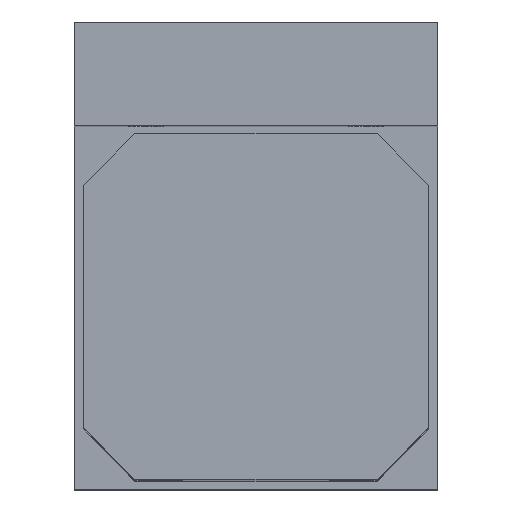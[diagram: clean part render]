
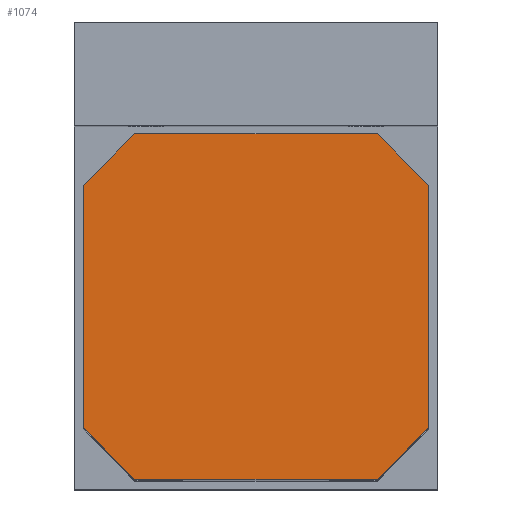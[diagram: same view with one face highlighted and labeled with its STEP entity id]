
A CAD part, top view. The second image highlights one B-rep face of the part: STEP entity #1074.
In plain terms, the highlighted planar face has unit normal (0, 0, 1).
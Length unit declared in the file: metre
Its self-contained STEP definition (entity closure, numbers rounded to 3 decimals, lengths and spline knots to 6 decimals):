
#221=ORIENTED_EDGE('',*,*,#415,.T.);
#222=ORIENTED_EDGE('',*,*,#443,.T.);
#223=ORIENTED_EDGE('',*,*,#383,.F.);
#224=ORIENTED_EDGE('',*,*,#444,.T.);
#225=ORIENTED_EDGE('',*,*,#395,.F.);
#226=ORIENTED_EDGE('',*,*,#445,.T.);
#227=ORIENTED_EDGE('',*,*,#405,.T.);
#228=ORIENTED_EDGE('',*,*,#446,.T.);
#383=EDGE_CURVE('',#515,#516,#615,.T.);
#395=EDGE_CURVE('',#525,#526,#627,.T.);
#405=EDGE_CURVE('',#534,#533,#637,.T.);
#415=EDGE_CURVE('',#544,#543,#647,.T.);
#443=EDGE_CURVE('',#543,#516,#660,.T.);
#444=EDGE_CURVE('',#515,#526,#661,.F.);
#445=EDGE_CURVE('',#525,#534,#662,.T.);
#446=EDGE_CURVE('',#533,#544,#663,.F.);
#515=VERTEX_POINT('',#1638);
#516=VERTEX_POINT('',#1640);
#525=VERTEX_POINT('',#1661);
#526=VERTEX_POINT('',#1663);
#533=VERTEX_POINT('',#1680);
#534=VERTEX_POINT('',#1682);
#543=VERTEX_POINT('',#1701);
#544=VERTEX_POINT('',#1703);
#615=LINE('',#1639,#700);
#627=LINE('',#1662,#712);
#637=LINE('',#1681,#722);
#647=LINE('',#1702,#732);
#660=LINE('',#1764,#745);
#661=LINE('',#1765,#746);
#662=LINE('',#1766,#747);
#663=LINE('',#1767,#748);
#700=VECTOR('',#1301,1.);
#712=VECTOR('',#1315,1.);
#722=VECTOR('',#1327,1.);
#732=VECTOR('',#1339,1.);
#745=VECTOR('',#1422,1.);
#746=VECTOR('',#1423,1.);
#747=VECTOR('',#1424,1.);
#748=VECTOR('',#1425,1.);
#808=EDGE_LOOP('',(#221,#222,#223,#224,#225,#226,#227,#228));
#923=FACE_BOUND('',#808,.T.);
#1022=PLANE('',#1194);
#1074=ADVANCED_FACE('',(#923),#1022,.T.);
#1194=AXIS2_PLACEMENT_3D('',#1763,#1420,#1421);
#1301=DIRECTION('',(-1.,0.,0.));
#1315=DIRECTION('',(0.,-1.,0.));
#1327=DIRECTION('',(-1.,0.,0.));
#1339=DIRECTION('',(0.,-1.,0.));
#1420=DIRECTION('',(0.,0.,1.));
#1421=DIRECTION('',(1.,0.,0.));
#1422=DIRECTION('',(0.707,-0.707,0.));
#1423=DIRECTION('',(-0.707,-0.707,0.));
#1424=DIRECTION('',(-0.707,0.707,0.));
#1425=DIRECTION('',(0.707,0.707,0.));
#1638=CARTESIAN_POINT('',(0.014,-0.02,0.107));
#1639=CARTESIAN_POINT('',(0.,-0.02,0.107));
#1640=CARTESIAN_POINT('',(-0.014,-0.02,0.107));
#1661=CARTESIAN_POINT('',(0.02,0.014,0.107));
#1662=CARTESIAN_POINT('',(0.02,0.,0.107));
#1663=CARTESIAN_POINT('',(0.02,-0.014,0.107));
#1680=CARTESIAN_POINT('',(-0.014,0.02,0.107));
#1681=CARTESIAN_POINT('',(0.,0.02,0.107));
#1682=CARTESIAN_POINT('',(0.014,0.02,0.107));
#1701=CARTESIAN_POINT('',(-0.02,-0.014,0.107));
#1702=CARTESIAN_POINT('',(-0.02,0.,0.107));
#1703=CARTESIAN_POINT('',(-0.02,0.014,0.107));
#1763=CARTESIAN_POINT('',(0.,0.,0.107));
#1764=CARTESIAN_POINT('',(-0.017,-0.017,0.107));
#1765=CARTESIAN_POINT('',(0.017,-0.017,0.107));
#1766=CARTESIAN_POINT('',(0.017,0.017,0.107));
#1767=CARTESIAN_POINT('',(-0.017,0.017,0.107));
